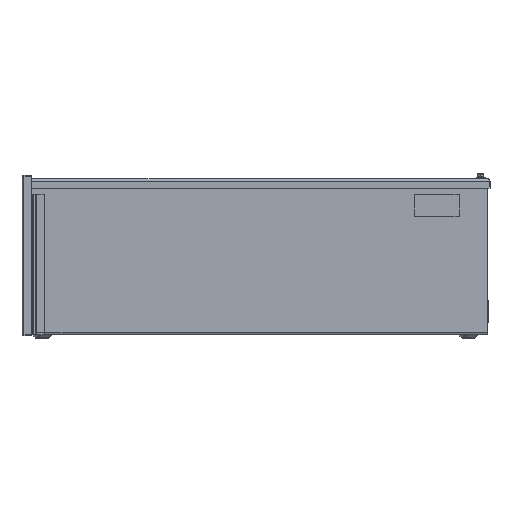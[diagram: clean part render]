
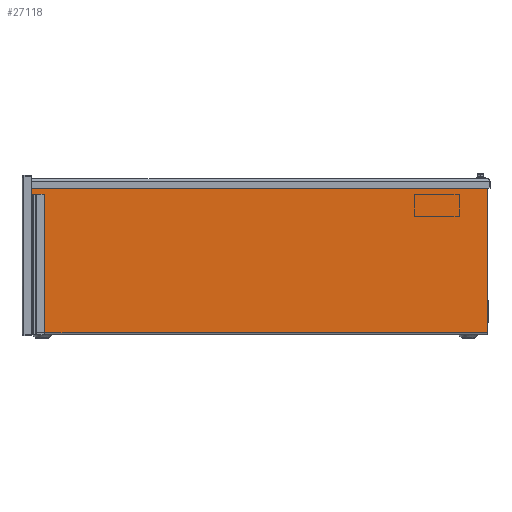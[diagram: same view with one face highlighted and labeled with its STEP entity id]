
A CAD part, left-side view. The second image highlights one B-rep face of the part: STEP entity #27118.
In plain terms, the highlighted planar face has unit normal (-1, 0, 0).
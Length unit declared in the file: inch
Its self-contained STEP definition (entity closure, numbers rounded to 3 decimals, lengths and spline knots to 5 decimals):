
#1110 = ORIENTED_EDGE ( 'NONE', *, *, #8182, .F. ) ;
#2166 = EDGE_CURVE ( 'NONE', #16347, #29928, #9261, .T. ) ;
#2783 = VECTOR ( 'NONE', #11798, 39.37008 ) ;
#5326 = DIRECTION ( 'NONE',  ( 0., 0., 1. ) ) ;
#6973 = CARTESIAN_POINT ( 'NONE',  ( -12., 18., 11.823 ) ) ;
#7115 = LINE ( 'NONE', #27410, #18086 ) ;
#7448 = LINE ( 'NONE', #6973, #2783 ) ;
#7543 = ORIENTED_EDGE ( 'NONE', *, *, #28334, .F. ) ;
#8182 = EDGE_CURVE ( 'NONE', #13376, #19889, #7448, .T. ) ;
#9261 = LINE ( 'NONE', #21352, #11709 ) ;
#9662 = LINE ( 'NONE', #22223, #12665 ) ;
#11261 = CARTESIAN_POINT ( 'NONE',  ( -12., 18., 0.177 ) ) ;
#11709 = VECTOR ( 'NONE', #26521, 39.37008 ) ;
#11798 = DIRECTION ( 'NONE',  ( 0., -1., 0. ) ) ;
#12136 = ORIENTED_EDGE ( 'NONE', *, *, #2166, .T. ) ;
#12342 = ORIENTED_EDGE ( 'NONE', *, *, #24107, .T. ) ;
#12665 = VECTOR ( 'NONE', #21906, 39.37008 ) ;
#13376 = VERTEX_POINT ( 'NONE', #21196 ) ;
#16347 = VERTEX_POINT ( 'NONE', #11261 ) ;
#17784 = CARTESIAN_POINT ( 'NONE',  ( -12., 18., 0. ) ) ;
#18086 = VECTOR ( 'NONE', #5326, 39.37008 ) ;
#19889 = VERTEX_POINT ( 'NONE', #31323 ) ;
#20208 = FACE_OUTER_BOUND ( 'NONE', #27277, .T. ) ;
#21196 = CARTESIAN_POINT ( 'NONE',  ( -12., 18., 11.823 ) ) ;
#21352 = CARTESIAN_POINT ( 'NONE',  ( -12., 18., 0.177 ) ) ;
#21906 = DIRECTION ( 'NONE',  ( 0., 0., 1. ) ) ;
#22223 = CARTESIAN_POINT ( 'NONE',  ( -12., -18., 0. ) ) ;
#22281 = DIRECTION ( 'NONE',  ( 0., 0., -1. ) ) ;
#22445 = DIRECTION ( 'NONE',  ( 1., 0., 0. ) ) ;
#24107 = EDGE_CURVE ( 'NONE', #29928, #19889, #9662, .T. ) ;
#26521 = DIRECTION ( 'NONE',  ( 0., -1., 0. ) ) ;
#27118 = ADVANCED_FACE ( 'NONE', ( #20208 ), #27292, .F. ) ;
#27277 = EDGE_LOOP ( 'NONE', ( #12342, #1110, #7543, #12136 ) ) ;
#27292 = PLANE ( 'NONE',  #30301 ) ;
#27410 = CARTESIAN_POINT ( 'NONE',  ( -12., 18., 0. ) ) ;
#28087 = CARTESIAN_POINT ( 'NONE',  ( -12., -18., 0.177 ) ) ;
#28334 = EDGE_CURVE ( 'NONE', #16347, #13376, #7115, .T. ) ;
#29928 = VERTEX_POINT ( 'NONE', #28087 ) ;
#30301 = AXIS2_PLACEMENT_3D ( 'NONE', #17784, #22445, #22281 ) ;
#31323 = CARTESIAN_POINT ( 'NONE',  ( -12., -18., 11.823 ) ) ;
